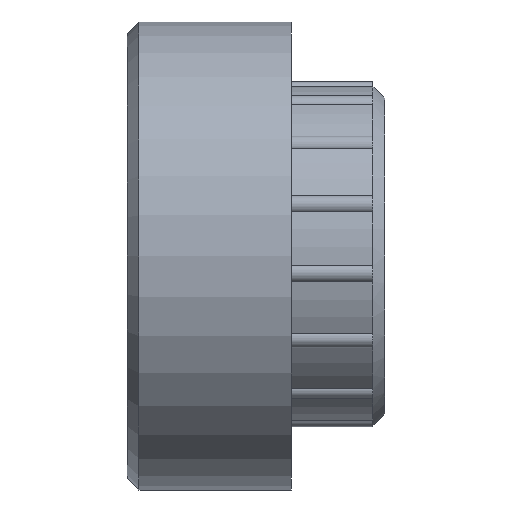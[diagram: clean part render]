
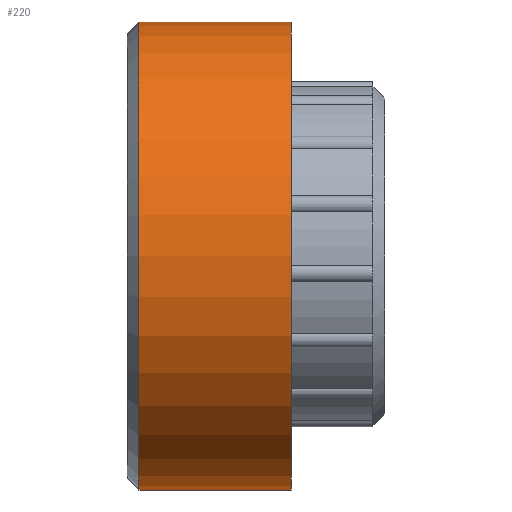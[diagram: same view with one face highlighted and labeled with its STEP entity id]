
A CAD part, left-side view. The second image highlights one B-rep face of the part: STEP entity #220.
In plain terms, the highlighted cylindrical face has radius 10 mm (diameter 20 mm), a partial arc.
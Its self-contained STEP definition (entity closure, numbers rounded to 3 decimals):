
#57 = VERTEX_POINT ( 'NONE', #1513 ) ;
#100 = CARTESIAN_POINT ( 'NONE',  ( 0., 5.5, -10. ) ) ;
#114 = VERTEX_POINT ( 'NONE', #775 ) ;
#148 = DIRECTION ( 'NONE',  ( 0., -1., 0. ) ) ;
#220 = ADVANCED_FACE ( 'NONE', ( #523 ), #1924, .T. ) ;
#338 = DIRECTION ( 'NONE',  ( 0., 0., -1. ) ) ;
#415 = ORIENTED_EDGE ( 'NONE', *, *, #1427, .F. ) ;
#452 = ORIENTED_EDGE ( 'NONE', *, *, #907, .T. ) ;
#491 = DIRECTION ( 'NONE',  ( 0., -1., 0. ) ) ;
#492 = CARTESIAN_POINT ( 'NONE',  ( 0., -1.5, -10. ) ) ;
#523 = FACE_OUTER_BOUND ( 'NONE', #1112, .T. ) ;
#587 = EDGE_CURVE ( 'NONE', #1171, #114, #1500, .T. ) ;
#609 = AXIS2_PLACEMENT_3D ( 'NONE', #1510, #1524, #1575 ) ;
#631 = EDGE_CURVE ( 'NONE', #1171, #57, #765, .T. ) ;
#684 = ORIENTED_EDGE ( 'NONE', *, *, #631, .T. ) ;
#688 = CARTESIAN_POINT ( 'NONE',  ( 0., 5.5, 10. ) ) ;
#709 = CARTESIAN_POINT ( 'NONE',  ( 0., 5., 10. ) ) ;
#718 = VECTOR ( 'NONE', #1276, 1000. ) ;
#765 = CIRCLE ( 'NONE', #827, 10. ) ;
#775 = CARTESIAN_POINT ( 'NONE',  ( 0., -1.5, 10. ) ) ;
#827 = AXIS2_PLACEMENT_3D ( 'NONE', #1058, #1074, #1113 ) ;
#855 = VECTOR ( 'NONE', #148, 1000. ) ;
#907 = EDGE_CURVE ( 'NONE', #57, #1163, #1253, .T. ) ;
#1058 = CARTESIAN_POINT ( 'NONE',  ( 0., 5., 0. ) ) ;
#1074 = DIRECTION ( 'NONE',  ( 0., -1., 0. ) ) ;
#1112 = EDGE_LOOP ( 'NONE', ( #1657, #684, #452, #415 ) ) ;
#1113 = DIRECTION ( 'NONE',  ( 0., 0., 1. ) ) ;
#1163 = VERTEX_POINT ( 'NONE', #492 ) ;
#1171 = VERTEX_POINT ( 'NONE', #709 ) ;
#1253 = LINE ( 'NONE', #100, #855 ) ;
#1276 = DIRECTION ( 'NONE',  ( 0., -1., 0. ) ) ;
#1427 = EDGE_CURVE ( 'NONE', #114, #1163, #1627, .T. ) ;
#1481 = AXIS2_PLACEMENT_3D ( 'NONE', #1685, #491, #338 ) ;
#1500 = LINE ( 'NONE', #688, #718 ) ;
#1510 = CARTESIAN_POINT ( 'NONE',  ( 0., 5.5, 0. ) ) ;
#1513 = CARTESIAN_POINT ( 'NONE',  ( 0., 5., -10. ) ) ;
#1524 = DIRECTION ( 'NONE',  ( 0., -1., 0. ) ) ;
#1575 = DIRECTION ( 'NONE',  ( 0., 0., -1. ) ) ;
#1627 = CIRCLE ( 'NONE', #1481, 10. ) ;
#1657 = ORIENTED_EDGE ( 'NONE', *, *, #587, .F. ) ;
#1685 = CARTESIAN_POINT ( 'NONE',  ( 0., -1.5, 0. ) ) ;
#1924 = CYLINDRICAL_SURFACE ( 'NONE', #609, 10. ) ;
